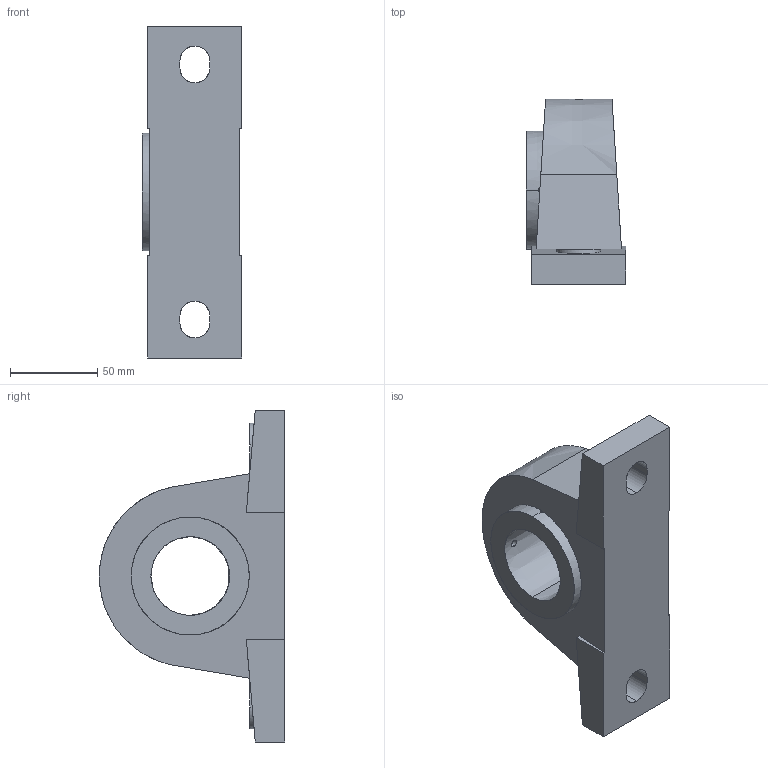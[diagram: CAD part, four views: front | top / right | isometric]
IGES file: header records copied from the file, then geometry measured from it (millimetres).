
Start section: SolidWorks IGES file using analytic representation for surfaces
Global section: file name: C:\Users\Honza\Desktop\Matis\Ložisková tìlesa\UCP\UCP 209.IGS; native system: SolidWorks 2010; preprocessor: SolidWorks 2010; author: Honza; date: 130920.104444; units: millimetre
Bounding box: 57.2 x 106 x 190 mm (x, y, z)
Surface area: 58072.3 mm2 (no closed solid volume)
Topology: 0 solids, 0 shells, 57 faces, 1343 edges, 1341 vertices
Faces by surface type: bspline 31, revolution 26
